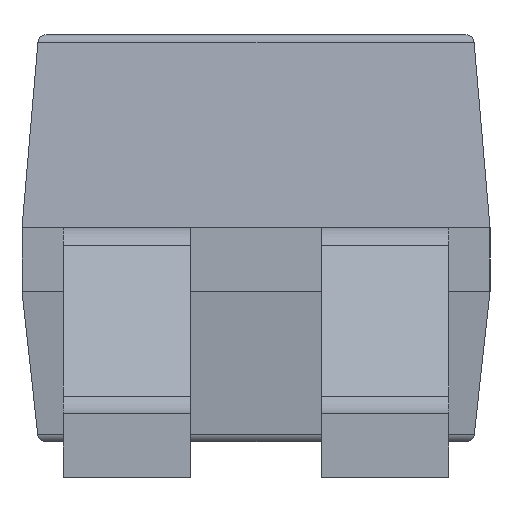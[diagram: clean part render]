
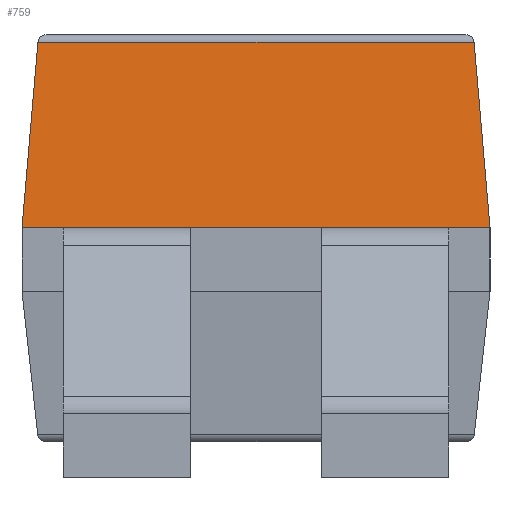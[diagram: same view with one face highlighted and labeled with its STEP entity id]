
A CAD part, left-side view. The second image highlights one B-rep face of the part: STEP entity #759.
In plain terms, the highlighted planar face has unit normal (-0.996, 0, 0.085).
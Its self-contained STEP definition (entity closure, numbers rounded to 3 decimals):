
#87 = PLANE('',#88);
#88 = AXIS2_PLACEMENT_3D('',#89,#90,#91);
#89 = CARTESIAN_POINT('',(-3.25,-2.3,0.35));
#90 = DIRECTION('',(1.,0.,0.));
#91 = DIRECTION('',(0.,0.,1.));
#350 = VERTEX_POINT('',#351);
#351 = CARTESIAN_POINT('',(-3.25,-2.3,2.453));
#374 = VERTEX_POINT('',#375);
#375 = CARTESIAN_POINT('',(-3.25,2.3,2.453));
#401 = EDGE_CURVE('',#350,#374,#402,.T.);
#402 = SURFACE_CURVE('',#403,(#407,#414),.PCURVE_S1.);
#403 = LINE('',#404,#405);
#404 = CARTESIAN_POINT('',(-3.25,-2.3,2.453));
#405 = VECTOR('',#406,1.);
#406 = DIRECTION('',(0.,1.,0.));
#407 = PCURVE('',#87,#408);
#408 = DEFINITIONAL_REPRESENTATION('',(#409),#413);
#409 = LINE('',#410,#411);
#410 = CARTESIAN_POINT('',(2.103,0.));
#411 = VECTOR('',#412,1.);
#412 = DIRECTION('',(0.,-1.));
#413 = ( GEOMETRIC_REPRESENTATION_CONTEXT(2) 
PARAMETRIC_REPRESENTATION_CONTEXT() REPRESENTATION_CONTEXT('2D SPACE',''
  ) );
#414 = PCURVE('',#415,#420);
#415 = PLANE('',#416);
#416 = AXIS2_PLACEMENT_3D('',#417,#418,#419);
#417 = CARTESIAN_POINT('',(-3.169,-2.3,3.401));
#418 = DIRECTION('',(0.996,0.,-0.085));
#419 = DIRECTION('',(0.,1.,0.));
#420 = DEFINITIONAL_REPRESENTATION('',(#421),#425);
#421 = LINE('',#422,#423);
#422 = CARTESIAN_POINT('',(0.,-0.952));
#423 = VECTOR('',#424,1.);
#424 = DIRECTION('',(1.,0.));
#425 = ( GEOMETRIC_REPRESENTATION_CONTEXT(2) 
PARAMETRIC_REPRESENTATION_CONTEXT() REPRESENTATION_CONTEXT('2D SPACE',''
  ) );
#612 = PLANE('',#613);
#613 = AXIS2_PLACEMENT_3D('',#614,#615,#616);
#614 = CARTESIAN_POINT('',(-3.25,-2.219,3.401));
#615 = DIRECTION('',(0.,0.996,-0.085));
#616 = DIRECTION('',(-1.,-0.,-0.));
#759 = ADVANCED_FACE('',(#760),#415,.F.);
#760 = FACE_BOUND('',#761,.F.);
#761 = EDGE_LOOP('',(#762,#785,#786,#814));
#762 = ORIENTED_EDGE('',*,*,#763,.F.);
#763 = EDGE_CURVE('',#350,#764,#766,.T.);
#764 = VERTEX_POINT('',#765);
#765 = CARTESIAN_POINT('',(-3.094,-2.144,4.277)
  );
#766 = SURFACE_CURVE('',#767,(#771,#778),.PCURVE_S1.);
#767 = LINE('',#768,#769);
#768 = CARTESIAN_POINT('',(-3.169,-2.219,
    3.395));
#769 = VECTOR('',#770,1.);
#770 = DIRECTION('',(0.085,0.085,
    0.993));
#771 = PCURVE('',#415,#772);
#772 = DEFINITIONAL_REPRESENTATION('',(#773),#777);
#773 = LINE('',#774,#775);
#774 = CARTESIAN_POINT('',(0.081,-0.007));
#775 = VECTOR('',#776,1.);
#776 = DIRECTION('',(0.085,0.996));
#777 = ( GEOMETRIC_REPRESENTATION_CONTEXT(2) 
PARAMETRIC_REPRESENTATION_CONTEXT() REPRESENTATION_CONTEXT('2D SPACE',''
  ) );
#778 = PCURVE('',#612,#779);
#779 = DEFINITIONAL_REPRESENTATION('',(#780),#784);
#780 = LINE('',#781,#782);
#781 = CARTESIAN_POINT('',(-0.081,-0.007));
#782 = VECTOR('',#783,1.);
#783 = DIRECTION('',(-0.085,0.996));
#784 = ( GEOMETRIC_REPRESENTATION_CONTEXT(2) 
PARAMETRIC_REPRESENTATION_CONTEXT() REPRESENTATION_CONTEXT('2D SPACE',''
  ) );
#785 = ORIENTED_EDGE('',*,*,#401,.T.);
#786 = ORIENTED_EDGE('',*,*,#787,.T.);
#787 = EDGE_CURVE('',#374,#788,#790,.T.);
#788 = VERTEX_POINT('',#789);
#789 = CARTESIAN_POINT('',(-3.094,2.144,4.277)
  );
#790 = SURFACE_CURVE('',#791,(#795,#802),.PCURVE_S1.);
#791 = LINE('',#792,#793);
#792 = CARTESIAN_POINT('',(-3.153,2.203,3.589
    ));
#793 = VECTOR('',#794,1.);
#794 = DIRECTION('',(0.085,-0.085,
    0.993));
#795 = PCURVE('',#415,#796);
#796 = DEFINITIONAL_REPRESENTATION('',(#797),#801);
#797 = LINE('',#798,#799);
#798 = CARTESIAN_POINT('',(4.503,0.188));
#799 = VECTOR('',#800,1.);
#800 = DIRECTION('',(-0.085,0.996));
#801 = ( GEOMETRIC_REPRESENTATION_CONTEXT(2) 
PARAMETRIC_REPRESENTATION_CONTEXT() REPRESENTATION_CONTEXT('2D SPACE',''
  ) );
#802 = PCURVE('',#803,#808);
#803 = PLANE('',#804);
#804 = AXIS2_PLACEMENT_3D('',#805,#806,#807);
#805 = CARTESIAN_POINT('',(-3.25,2.219,3.401));
#806 = DIRECTION('',(0.,0.996,0.085));
#807 = DIRECTION('',(-1.,0.,0.));
#808 = DEFINITIONAL_REPRESENTATION('',(#809),#813);
#809 = LINE('',#810,#811);
#810 = CARTESIAN_POINT('',(-0.097,0.188));
#811 = VECTOR('',#812,1.);
#812 = DIRECTION('',(-0.085,0.996));
#813 = ( GEOMETRIC_REPRESENTATION_CONTEXT(2) 
PARAMETRIC_REPRESENTATION_CONTEXT() REPRESENTATION_CONTEXT('2D SPACE',''
  ) );
#814 = ORIENTED_EDGE('',*,*,#815,.F.);
#815 = EDGE_CURVE('',#764,#788,#816,.T.);
#816 = SURFACE_CURVE('',#817,(#821,#828),.PCURVE_S1.);
#817 = LINE('',#818,#819);
#818 = CARTESIAN_POINT('',(-3.094,-2.138,4.277));
#819 = VECTOR('',#820,1.);
#820 = DIRECTION('',(0.,1.,0.));
#821 = PCURVE('',#415,#822);
#822 = DEFINITIONAL_REPRESENTATION('',(#823),#827);
#823 = LINE('',#824,#825);
#824 = CARTESIAN_POINT('',(0.163,0.879));
#825 = VECTOR('',#826,1.);
#826 = DIRECTION('',(1.,0.));
#827 = ( GEOMETRIC_REPRESENTATION_CONTEXT(2) 
PARAMETRIC_REPRESENTATION_CONTEXT() REPRESENTATION_CONTEXT('2D SPACE',''
  ) );
#828 = PCURVE('',#829,#834);
#829 = CYLINDRICAL_SURFACE('',#830,0.08);
#830 = AXIS2_PLACEMENT_3D('',#831,#832,#833);
#831 = CARTESIAN_POINT('',(-3.014,-2.138,4.27));
#832 = DIRECTION('',(0.,1.,0.));
#833 = DIRECTION('',(-0.996,0.,0.085));
#834 = DEFINITIONAL_REPRESENTATION('',(#835),#839);
#835 = LINE('',#836,#837);
#836 = CARTESIAN_POINT('',(0.,0.));
#837 = VECTOR('',#838,1.);
#838 = DIRECTION('',(0.,1.));
#839 = ( GEOMETRIC_REPRESENTATION_CONTEXT(2) 
PARAMETRIC_REPRESENTATION_CONTEXT() REPRESENTATION_CONTEXT('2D SPACE',''
  ) );
